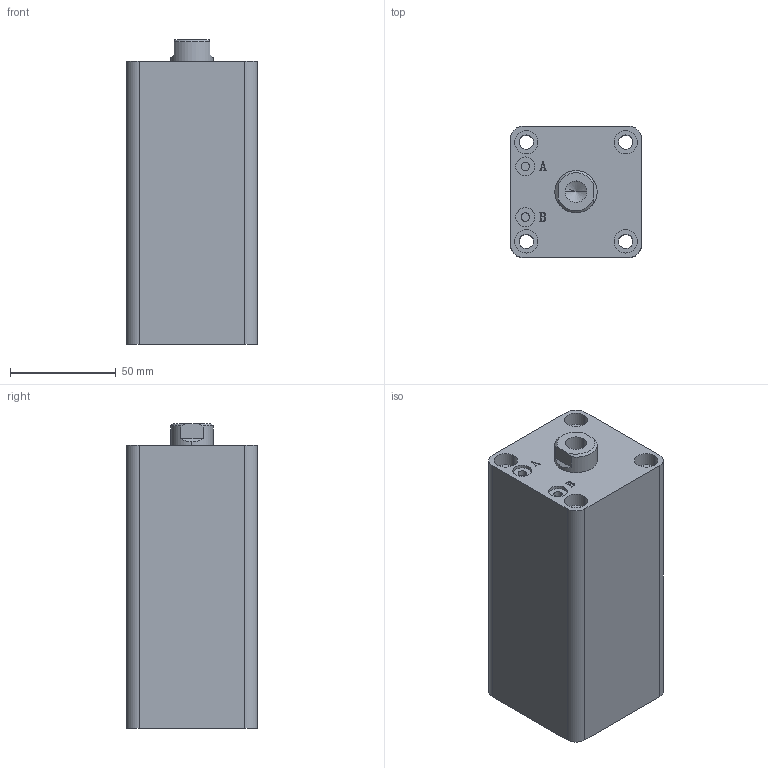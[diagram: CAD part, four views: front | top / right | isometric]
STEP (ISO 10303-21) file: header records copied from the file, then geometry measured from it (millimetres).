
FILE_DESCRIPTION (( 'STEP AP203' ), '1' );
FILE_NAME ('HTB-SDMA32-80N.STEP', '2019-10-07T11:44:16', ( '微软用户' ), ( '微软中国' ), 'SwSTEP 2.0', 'SolidWorks 2012', '' );
FILE_SCHEMA (( 'CONFIG_CONTROL_DESIGN' ));
Length unit declared in the file: millimetre
Products named in the file (3): HTB-SDMA32-80N; HTB-SDMA32-80N活塞杆; HTB-SDMA32-80掛极
Assembly tree (2 placements, depth 2):
  HTB-SDMA32-80N
    HTB-SDMA32-80掛极
    HTB-SDMA32-80N活塞杆
Bounding box: 62 x 62 x 144 mm (x, y, z)
Volume: 450238.8 mm3; surface area: 75362.6 mm2
Topology: 2 solids, 2 shells, 137 faces, 331 edges, 217 vertices
Faces by surface type: plane 65, cylinder 46, bspline 16, torus 6, cone 4
Entity records: 5070 total; most frequent: CARTESIAN_POINT 1576, ORIENTED_EDGE 658, DIRECTION 647, EDGE_CURVE 329, AXIS2_PLACEMENT_3D 232, VERTEX_POINT 217, LINE 183, VECTOR 183
